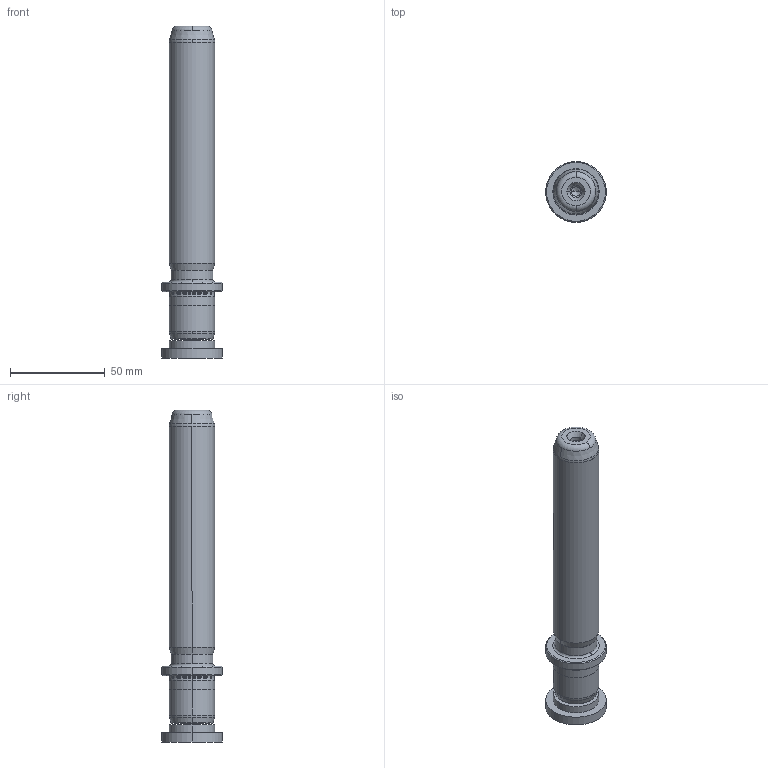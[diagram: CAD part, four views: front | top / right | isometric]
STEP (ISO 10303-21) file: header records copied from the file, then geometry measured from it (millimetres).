
FILE_DESCRIPTION((''),'2;1');
FILE_NAME('P22_024_140.stp','2009-02-02T15:30:22',(''),(''),'Mechanical Desktop 2009','Mechanical Desktop 2009',', , ');
FILE_SCHEMA(('CONFIG_CONTROL_DESIGN'));
Length unit declared in the file: millimetre
Products named in the file (2): Product; blmdl1
Assembly tree (1 placements, depth 2):
  Product
    blmdl1
Bounding box: 32 x 32 x 175 mm (x, y, z)
Volume: 79792.6 mm3; surface area: 17776.7 mm2
Topology: 3 solids, 3 shells, 99 faces, 237 edges, 149 vertices
Faces by surface type: cylinder 32, cone 28, plane 19, torus 10, bspline 10
Entity records: 3419 total; most frequent: CARTESIAN_POINT 923, DIRECTION 570, ORIENTED_EDGE 466, AXIS2_PLACEMENT_3D 246, EDGE_CURVE 233, CIRCLE 155, VERTEX_POINT 149, EDGE_LOOP 110
